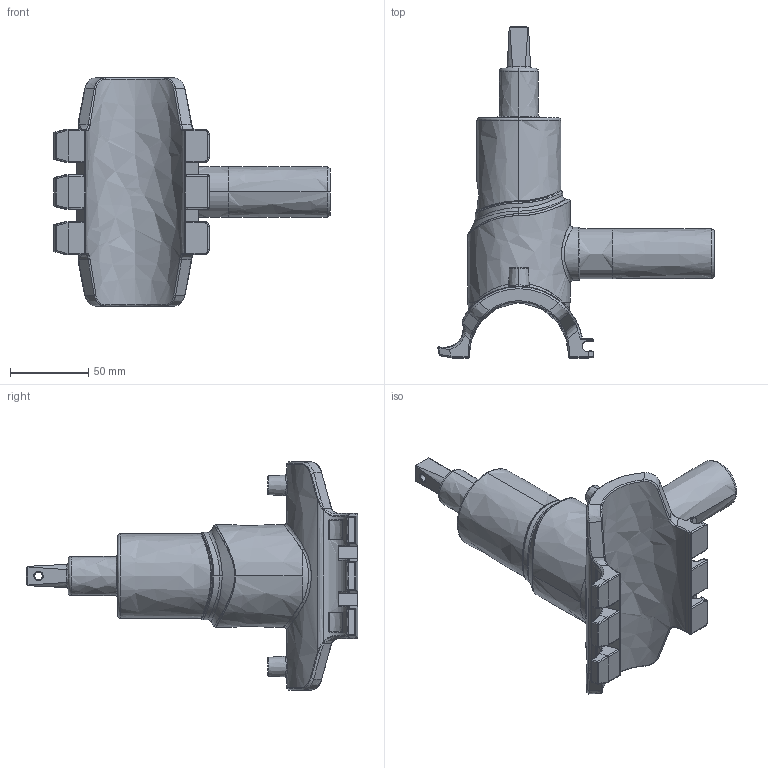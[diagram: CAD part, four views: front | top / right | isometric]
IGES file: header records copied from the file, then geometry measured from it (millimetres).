
Start section:  PTC IGES file: dav2_d063_32_01.igs
Global section: file name: dav2_d063_32_01.igs; native system: Creo Parametric by PTC Inc.; preprocessor: 2022124; author: mikulicp; organization: Unknown; date: 20240502.125708; units: millimetre
Bounding box: 176.91 x 212.35 x 146 mm (x, y, z)
Surface area: 78138.4 mm2 (no closed solid volume)
Topology: 0 solids, 0 shells, 530 faces, 2586 edges, 2580 vertices
Faces by surface type: bspline 530
